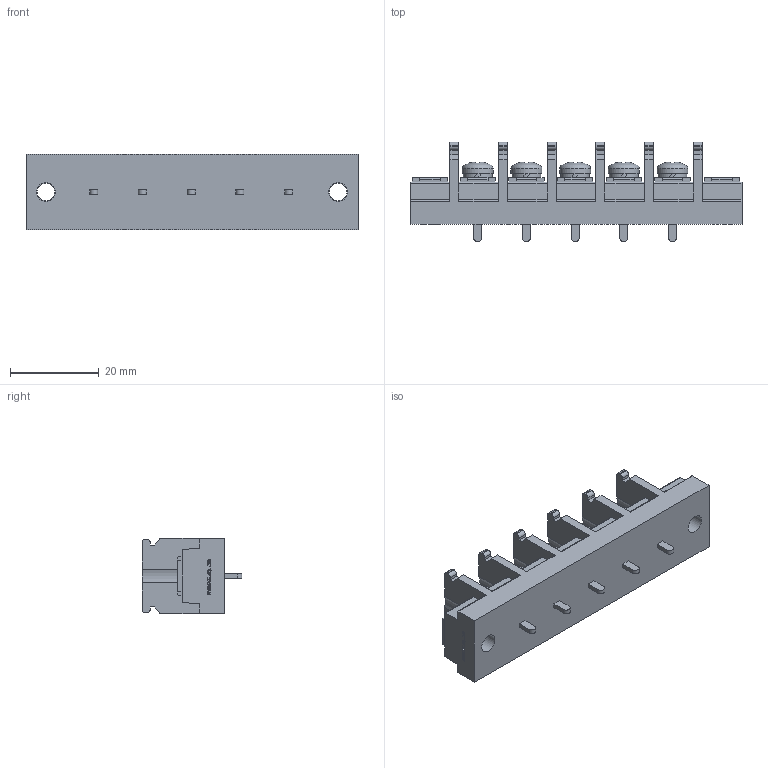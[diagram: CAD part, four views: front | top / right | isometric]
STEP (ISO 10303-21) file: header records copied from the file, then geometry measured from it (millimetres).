
FILE_DESCRIPTION(/* description */ ('Alibre Inc.'),/* implementation_level */ '2;1');
FILE_NAME(/* name */ 'export0',/* time_stamp */ '2015-10-19T19:07:38+09:00',/* author */ (''),/* organization */ (''),/* preprocessor_version */ 'ST-DEVELOPER v14',/* originating_system */ 'Alibre',/* authorisation */ '');
FILE_SCHEMA (('CONFIG_CONTROL_DESIGN'));
Length unit declared in the file: centimetre
Products named in the file (1): ID_1
Bounding box: 75 x 22.5 x 17 mm (x, y, z)
Volume: 13315.1 mm3; surface area: 7600.5 mm2
Topology: 1 solids, 1 shells, 819 faces, 2261 edges, 1503 vertices
Faces by surface type: plane 578, bspline 104, cylinder 102, cone 20, torus 10, sphere 5
Full cylindrical faces by diameter (mm): 4 x7, 4.2 x2, 6.5 x5, 7 x5
Entity records: 25310 total; most frequent: CARTESIAN_POINT 5601, ORIENTED_EDGE 4440, DIRECTION 3154, EDGE_CURVE 2220, VECTOR 1612, LINE 1612, VERTEX_POINT 1486, AXIS2_PLACEMENT_3D 1055
